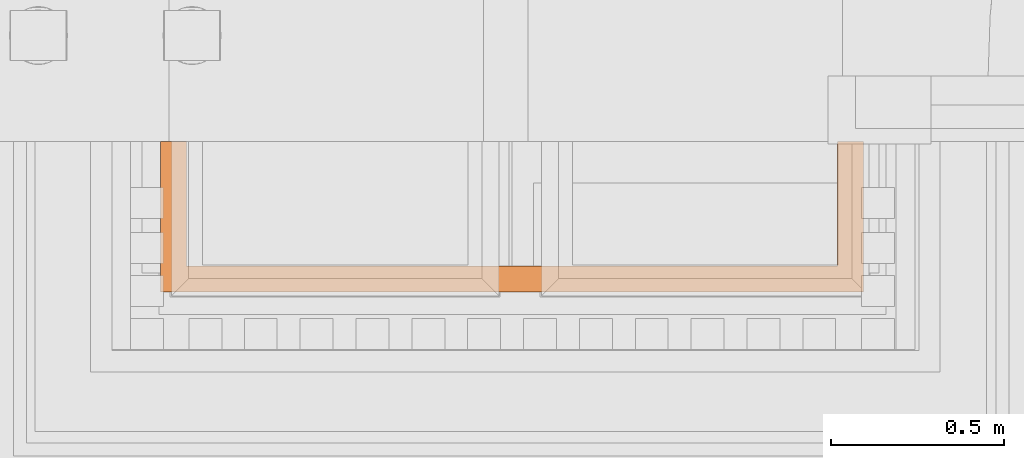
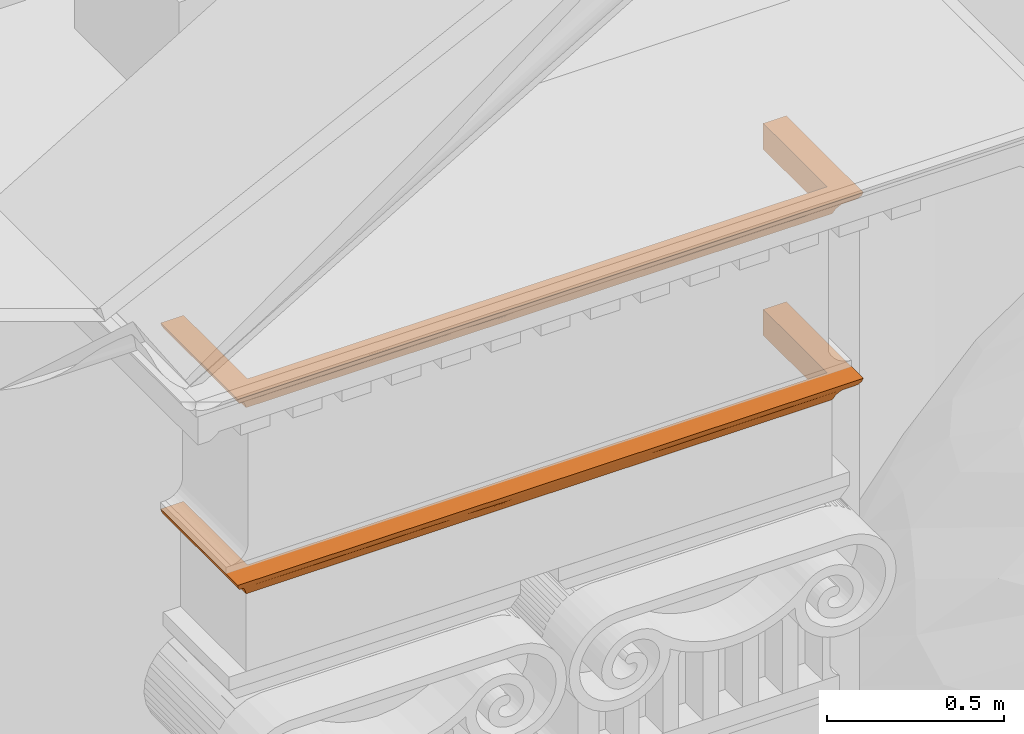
# One storey, part 28 of 44: 2 proxies.
"""IFC2X3 building model written with IfcOpenShell, lengths in metres."""

import ifcopenshell
import ifcopenshell.guid

model = None  # the IFC model being written
_history = None  # IfcOwnerHistory: only IFC2X3 demands one
_inside = {}  # id of a spatial element -> (the spatial element, [elements in it])
_under = {}  # id of a project, library or spatial element -> (it, [spatial elements below it])
_declared = {}  # id of a project -> (the project, [libraries it declares])
_typed = {}  # id of a type object -> (the type object, [elements of that type])
_made_of = {}  # id of a material, layer set ... -> (it, [elements and type objects made of it])


def new_model(schema):
    """Start an empty IFC model of exactly this schema.

    Asked for "IFC4X3", IfcOpenShell would pick the latest addendum, in which some entities
    have other attributes; the version numbers below select the first issue.
    IFC2X3 requires an IfcOwnerHistory on every rooted entity: one is made here for all.
    """
    global model, _history
    if schema == "IFC4X3":
        model = ifcopenshell.file(schema_version=(4, 3, 0, 0))
    else:
        model = ifcopenshell.file(schema=schema)
    _inside.clear()
    _under.clear()
    _declared.clear()
    _typed.clear()
    _made_of.clear()
    _history = None
    if model.schema == "IFC2X3":
        org = make("IfcOrganization", Name="unknown")
        user = make(
            "IfcPersonAndOrganization",
            ThePerson=make("IfcPerson", FamilyName="unknown"),
            TheOrganization=org,
        )
        app = make(
            "IfcApplication",
            ApplicationDeveloper=org,
            Version="unknown",
            ApplicationFullName="unknown",
            ApplicationIdentifier="unknown",
        )
        _history = make(
            "IfcOwnerHistory",
            OwningUser=user,
            OwningApplication=app,
            ChangeAction="ADDED",
            CreationDate=0,
        )
    return model


def make(cls, **values):
    """One entity of the class cls with the attributes given. An attribute that is None is left unset."""
    return model.create_entity(
        cls, **{name: value for name, value in values.items() if value is not None}
    )


def entity(cls, *values):
    """Any entity or typed value of the class cls, its attributes in the order of the schema. None: left unset."""
    e = model.create_entity(cls)
    for i, value in enumerate(values):
        if value is not None:
            e[i] = value
    return e


def rooted(cls, **values):
    """An entity with a GlobalId (a new one), such as an element, a storey or a relation."""
    return make(cls, GlobalId=ifcopenshell.guid.new(), OwnerHistory=_history, **values)


def si_unit(unit_type, name, prefix=None):
    """IfcSIUnit, for example si_unit("LENGTHUNIT", "METRE", prefix="MILLI")."""
    return make("IfcSIUnit", UnitType=unit_type, Prefix=prefix, Name=name)


def converted_unit(unit_type, name, factor, base, dimensions=None, offset=None):
    """IfcConversionBasedUnit, such as the inch: factor (a typed value) times the base unit."""
    return make(
        "IfcConversionBasedUnit"
        if offset is None
        else "IfcConversionBasedUnitWithOffset",
        ConversionOffset=offset,
        Dimensions=None
        if dimensions is None
        else entity("IfcDimensionalExponents", *dimensions),
        UnitType=unit_type,
        Name=name,
        ConversionFactor=make(
            "IfcMeasureWithUnit", ValueComponent=factor, UnitComponent=base
        ),
    )


def derived_unit(unit_type, elements):
    """IfcDerivedUnit: a product of units, each with its exponent."""
    return make(
        "IfcDerivedUnit",
        Elements=[
            make("IfcDerivedUnitElement", Unit=unit, Exponent=power)
            for unit, power in elements
        ],
        UnitType=unit_type,
    )


def assignment(units):
    """IfcUnitAssignment: the units of a project."""
    return None if units is None else make("IfcUnitAssignment", Units=units)


def point(xyz):
    """IfcCartesianPoint."""
    return None if xyz is None else make("IfcCartesianPoint", Coordinates=xyz)


def direction(xyz):
    """IfcDirection."""
    return None if xyz is None else make("IfcDirection", DirectionRatios=xyz)


def frame(location, z_axis=None, x_axis=None):
    """IfcAxis2Placement3D, a coordinate frame: its origin and axes. An axis left out is left unset."""
    return make(
        "IfcAxis2Placement3D",
        Location=point(location),
        Axis=direction(z_axis),
        RefDirection=direction(x_axis),
    )


def origin():
    """The frame at (0, 0, 0) with its axes left unset."""
    return frame((0.0, 0.0, 0.0))


def place(relative_to, where):
    """IfcLocalPlacement: puts the frame where relative to a parent placement (None: the world)."""
    return make(
        "IfcLocalPlacement", PlacementRelTo=relative_to, RelativePlacement=where
    )


def context(
    kind, dimensions, precision=None, world=None, true_north=None, identifier=None
):
    """IfcGeometricRepresentationContext, for example the 3D "Model" context."""
    return make(
        "IfcGeometricRepresentationContext",
        ContextIdentifier=identifier,
        ContextType=kind,
        CoordinateSpaceDimension=dimensions,
        Precision=precision,
        WorldCoordinateSystem=world,
        TrueNorth=true_north,
    )


def subcontext(parent, identifier, kind, view, scale=None):
    """IfcGeometricRepresentationSubContext, for example "Body" below "Model"."""
    return make(
        "IfcGeometricRepresentationSubContext",
        ContextIdentifier=identifier,
        ContextType=kind,
        ParentContext=parent,
        TargetScale=scale,
        TargetView=view,
    )


def project(units=None, contexts=None):
    """IfcProject with its units and contexts."""
    return rooted(
        "IfcProject",
        Name="project",
        RepresentationContexts=contexts,
        UnitsInContext=assignment(units),
    )


def spatial(cls, under=None, at=None, **own):
    """A site, building, storey or space (cls), placed at a placement, below another one or the project."""
    s = rooted(cls, ObjectPlacement=at, **own)
    if under is not None:
        _under.setdefault(under.id(), (under, []))[1].append(s)
    return s


def faces_of(points, faces, orient=None, outer=None):
    """IfcFace entities. A face is a list of loops; a loop is a list of indices into points, from 0.

    orient and outer hold one flag for each loop. By default every Orientation is true, the
    first loop of a face is its IfcFaceOuterBound and the others are IfcFaceBound.
    """
    made = []
    for i, loops in enumerate(faces):
        bounds = []
        for j, loop in enumerate(loops):
            is_outer = j == 0 if outer is None else outer[i][j]
            bounds.append(
                make(
                    "IfcFaceOuterBound" if is_outer else "IfcFaceBound",
                    Bound=make("IfcPolyLoop", Polygon=[points[k] for k in loop]),
                    Orientation=True if orient is None else orient[i][j],
                )
            )
        made.append(make("IfcFace", Bounds=bounds))
    return made


def faceted_brep(points, faces, orient=None, outer=None, voids=None):
    """IfcFacetedBrep: a solid bounded by flat faces; with voids (closed shells), ...WithVoids."""
    shared = [point(p) for p in points]
    hull = make("IfcClosedShell", CfsFaces=faces_of(shared, faces, orient, outer))
    if voids is None:
        return make("IfcFacetedBrep", Outer=hull)
    return make(
        "IfcFacetedBrepWithVoids",
        Outer=hull,
        Voids=[
            make(cls, CfsFaces=faces_of(shared, fs, o, b)) for cls, fs, o, b in voids
        ],
    )


def shape(context_of_items, identifier, shape_type, items):
    """IfcShapeRepresentation: the items that make up one representation, for example the "Body"."""
    return make(
        "IfcShapeRepresentation",
        ContextOfItems=context_of_items,
        RepresentationIdentifier=identifier,
        RepresentationType=shape_type,
        Items=items,
    )


def material(Name=None, Category=None):
    """IfcMaterial."""
    return make("IfcMaterial", Name=Name, Category=Category)


def made_of(thing, what):
    """Note that an element or type object is made of a material, layer set ...; save() writes the relation."""
    if what is not None:
        _made_of.setdefault(what.id(), (what, []))[1].append(thing)
    return thing


def element(
    cls,
    number,
    at=None,
    inside=None,
    cuts=None,
    type_object=None,
    material=None,
    context=None,
    identifier="Body",
    shape_type=None,
    held_by="IfcProductDefinitionShape",
    body=None,
    shapes=None,
    **own,
):
    """One element of the class cls, such as IfcWall. Its Tag is "e" and its number.

    at: its placement. inside: the storey or other place that contains it. cuts: it is an
    opening in that element (IfcRelVoidsElement). A single representation is given by context,
    identifier, shape_type and body (its items); several are given by shapes. held_by: the class
    of the entity that holds the representations. save() writes the other relations.
    """
    e = rooted(cls, Tag="e%d" % number, ObjectPlacement=at, **own)
    if body is not None:
        shapes = [shape(context, identifier, shape_type, body)]
    if shapes is not None:
        e.Representation = make(held_by, Representations=shapes)
    if inside is not None:
        _inside.setdefault(inside.id(), (inside, []))[1].append(e)
    if cuts is not None:
        rooted(
            "IfcRelVoidsElement", RelatingBuildingElement=cuts, RelatedOpeningElement=e
        )
    if type_object is not None:
        _typed.setdefault(type_object.id(), (type_object, []))[1].append(e)
    return made_of(e, material)


def aggregate(whole, parts):
    """IfcRelAggregates: a whole, such as a stair, and the parts it consists of."""
    return rooted("IfcRelAggregates", RelatingObject=whole, RelatedObjects=parts)


def save(model, path):
    """Write the relations noted so far, then the file.

    IfcRelAggregates (storeys below a building ...), IfcRelContainedInSpatialStructure (elements
    in a storey), IfcRelDefinesByType, IfcRelAssociatesMaterial and IfcRelDeclares: one each for
    every whole, place, type object, material and project.
    """
    for whole, parts in _under.values():
        aggregate(whole, parts)
    for where, things in _inside.values():
        rooted(
            "IfcRelContainedInSpatialStructure",
            RelatedElements=things,
            RelatingStructure=where,
        )
    for kind, things in _typed.values():
        rooted("IfcRelDefinesByType", RelatedObjects=things, RelatingType=kind)
    for what, things in _made_of.values():
        rooted("IfcRelAssociatesMaterial", RelatedObjects=things, RelatingMaterial=what)
    for by, libraries in _declared.values():
        rooted("IfcRelDeclares", RelatingContext=by, RelatedDefinitions=libraries)
    model.write(path)


model = new_model("IFC2X3")

# Units and contexts
model_context = context("Model", 3, precision=1e-05, world=origin(), true_north=direction((6.12303176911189e-17, 1.0)))
body_context = subcontext(model_context, "Body", "Model", "MODEL_VIEW")
ifc_project = project(units=[si_unit("LENGTHUNIT", "METRE"), si_unit("AREAUNIT", "SQUARE_METRE"), si_unit("VOLUMEUNIT", "CUBIC_METRE"), converted_unit("PLANEANGLEUNIT", "DEGREE", entity("IfcRatioMeasure", 0.0174532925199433), si_unit("PLANEANGLEUNIT", "RADIAN"), dimensions=[0, 0, 0, 0, 0, 0, 0]), si_unit("MASSUNIT", "GRAM", prefix="KILO"), derived_unit("MASSDENSITYUNIT", [(si_unit("MASSUNIT", "GRAM", prefix="KILO"), 1), (si_unit("LENGTHUNIT", "METRE"), -3)]), si_unit("TIMEUNIT", "SECOND"), si_unit("FREQUENCYUNIT", "HERTZ"), si_unit("THERMODYNAMICTEMPERATUREUNIT", "DEGREE_CELSIUS"), derived_unit("THERMALTRANSMITTANCEUNIT", [(si_unit("MASSUNIT", "GRAM", prefix="KILO"), 1), (si_unit("THERMODYNAMICTEMPERATUREUNIT", "KELVIN"), -1), (si_unit("TIMEUNIT", "SECOND"), -3)]), derived_unit("VOLUMETRICFLOWRATEUNIT", [(si_unit("LENGTHUNIT", "METRE"), 3), (si_unit("TIMEUNIT", "SECOND"), -1)]), si_unit("ELECTRICCURRENTUNIT", "AMPERE"), si_unit("ELECTRICVOLTAGEUNIT", "VOLT"), si_unit("POWERUNIT", "WATT"), si_unit("FORCEUNIT", "NEWTON", prefix="KILO"), si_unit("ILLUMINANCEUNIT", "LUX"), si_unit("LUMINOUSFLUXUNIT", "LUMEN"), si_unit("LUMINOUSINTENSITYUNIT", "CANDELA"), derived_unit("USERDEFINED", [(si_unit("MASSUNIT", "GRAM", prefix="KILO"), -1), (si_unit("LENGTHUNIT", "METRE"), -2), (si_unit("TIMEUNIT", "SECOND"), 3), (si_unit("LUMINOUSFLUXUNIT", "LUMEN"), 1)]), derived_unit("LINEARVELOCITYUNIT", [(si_unit("LENGTHUNIT", "METRE"), 1), (si_unit("TIMEUNIT", "SECOND"), -1)]), si_unit("PRESSUREUNIT", "PASCAL"), derived_unit("USERDEFINED", [(si_unit("LENGTHUNIT", "METRE"), -2), (si_unit("MASSUNIT", "GRAM", prefix="KILO"), 1), (si_unit("TIMEUNIT", "SECOND"), -2)])], contexts=[model_context])

# Site, building, storey
site_placement = place(None, origin())
site = spatial("IfcSite", under=ifc_project, at=site_placement, Name="Default", CompositionType="ELEMENT")
building_placement = place(site_placement, origin())
building = spatial("IfcBuilding", under=site, at=building_placement, CompositionType="ELEMENT")
storey_placement = place(building_placement, origin())
storey = spatial("IfcBuildingStorey", under=building, at=storey_placement, Name="Livello 1", CompositionType="ELEMENT", Elevation=0.0)

# Proxies
ifc_material = material(Name="Piperno")
proxy_1_placement = place(storey_placement, frame((-4.88894352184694, 0.826731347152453, 21.9353568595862)))
element("IfcBuildingElementProxy", 1, at=proxy_1_placement, inside=storey, material=ifc_material, Name="Stratigrafia", context=body_context, shape_type="Brep", body=[
    faceted_brep([(1.96261294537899, 0.436641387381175, 0.0912885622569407), (2.03761294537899, 0.436641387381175, 0.0912885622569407), (2.03387347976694, 0.436641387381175, 0.0791148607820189), (2.02722756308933, 0.436641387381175, 0.0682514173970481), (2.01809170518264, 0.436641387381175, 0.0593790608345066), (2.007038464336, 0.436641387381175, 0.0530538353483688), (1.99242845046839, 0.436641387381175, 0.038323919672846), (1.98112304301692, 0.436641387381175, 0.020928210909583), (1.97359573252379, 0.436641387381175, 0.0015952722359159), (1.96261294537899, 0.436641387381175, 0.0015952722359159), (0.0467797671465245, 0.436641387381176, 0.038323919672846), (0.0321697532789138, 0.436641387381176, 0.0530538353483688), (0.0211165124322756, 0.436641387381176, 0.0593790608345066), (0.0119806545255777, 0.436641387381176, 0.0682514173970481), (0.00533473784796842, 0.436641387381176, 0.0791148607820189), (0.00159527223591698, 0.436641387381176, 0.0912885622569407), (0.0765952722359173, 0.436641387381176, 0.0912885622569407), (0.0765952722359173, 0.436641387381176, 0.0015952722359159), (0.0656124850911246, 0.436641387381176, 0.0015952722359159), (0.0580851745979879, 0.436641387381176, 0.020928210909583), (2.007038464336, 0.207952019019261, 0.0530538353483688), (2.007038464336, 0.187600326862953, 0.0530538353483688), (2.007038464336, 0.032169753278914, 0.0530538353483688), (1.99242845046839, 0.0467797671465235, 0.038323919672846), (1.98112304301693, 0.0580851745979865, 0.020928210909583), (1.97359573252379, 0.0656124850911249, 0.0015952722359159), (1.62202667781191, 0.0656124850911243, 0.0015952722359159), (1.27046453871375, 0.0656124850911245, 0.0015952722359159), (1.0196006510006, 0.0656124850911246, 0.0015952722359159), (0.768736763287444, 0.0656124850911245, 0.0015952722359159), (0.417174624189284, 0.0656124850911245, 0.0015952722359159), (0.0656124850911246, 0.065612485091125, 0.0015952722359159), (0.0765952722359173, 0.0765952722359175, 0.0015952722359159), (1.96261294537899, 0.0765952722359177, 0.0015952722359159), (1.96261294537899, 0.0765952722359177, 0.0912885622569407), (0.0015952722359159, 0.250636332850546, 0.0912885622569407), (0.00159527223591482, 0.00159527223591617, 0.0912885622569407), (0.25063388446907, 0.00159527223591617, 0.0912885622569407), (0.499675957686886, 0.00159527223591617, 0.0912885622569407), (0.759640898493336, 0.00159527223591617, 0.0912885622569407), (1.01960237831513, 0.00159527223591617, 0.0912885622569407), (1.27956731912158, 0.00159527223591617, 0.0912885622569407), (1.53953225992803, 0.00159527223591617, 0.0912885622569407), (1.78857087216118, 0.00159527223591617, 0.0912885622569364), (2.03761294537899, 0.00159527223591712, 0.0912885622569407), (2.037612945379, 0.250636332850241, 0.0912885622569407), (0.0765952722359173, 0.0765952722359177, 0.0912885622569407), (2.03387347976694, 0.00533473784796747, 0.0791148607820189), (2.03089181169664, 0.224311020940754, 0.0734743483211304), (2.0350515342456, 0.266552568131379, 0.0819540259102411), (2.01809170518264, 0.0211165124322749, 0.0593790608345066), (2.01517555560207, 0.262980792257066, 0.0573396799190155), (2.02293837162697, 0.232788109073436, 0.0635282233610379), (2.02722756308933, 0.0119806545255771, 0.0682514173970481), (0.0467797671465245, 0.0467797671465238, 0.038323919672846), (0.0580851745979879, 0.0580851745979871, 0.020928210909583), (0.367866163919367, 0.0521366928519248, 0.0310412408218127), (1.67134205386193, 0.0521366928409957, 0.031041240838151), (0.383732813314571, 0.0321697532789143, 0.0530538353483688), (1.65547540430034, 0.0321697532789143, 0.0530538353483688), (1.45159991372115, 0.0460051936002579, 0.0392723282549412), (0.592959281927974, 0.0590390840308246, 0.019018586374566), (1.17857156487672, 0.049325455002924, 0.0350321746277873), (1.33754250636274, 0.0321697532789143, 0.0530538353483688), (1.26864147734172, 0.0321697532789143, 0.0530538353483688), (1.02833349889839, 0.0321697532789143, 0.0530538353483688), (1.01960410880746, 0.0321697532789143, 0.0530538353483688), (0.860636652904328, 0.0522964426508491, 0.0308017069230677), (0.779291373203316, 0.0321697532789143, 0.0530538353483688), (0.701665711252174, 0.0321697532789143, 0.0530538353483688), (1.75799633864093, 0.0321697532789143, 0.0530538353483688), (0.281211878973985, 0.0321697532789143, 0.0530538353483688), (0.0321697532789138, 0.0321697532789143, 0.0530538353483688), (0.604066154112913, 0.0469191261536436, 0.0381507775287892), (0.530254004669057, 0.0321697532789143, 0.0530538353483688), (1.42275632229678, 0.0580212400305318, 0.021052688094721), (1.14503538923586, 0.0596767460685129, 0.0176830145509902), (1.50895421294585, 0.0321697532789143, 0.0530538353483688), (0.546115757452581, 0.00416868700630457, 0.081922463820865), (0.375156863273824, 0.00622593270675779, 0.0772409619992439), (0.585577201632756, 0.00852306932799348, 0.0731394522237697), (1.85863883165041, 0.00817935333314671, 0.0736996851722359), (0.180569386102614, 0.00817935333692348, 0.0736996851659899), (0.195154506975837, 0.0146448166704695, 0.065179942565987), (0.391043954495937, 0.0157075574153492, 0.0640828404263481), (0.267640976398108, 0.0224796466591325, 0.0583878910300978), (1.77156724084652, 0.0224796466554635, 0.058387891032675), (0.00533473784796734, 0.00533473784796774, 0.0791148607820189), (0.0119806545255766, 0.0119806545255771, 0.0682514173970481), (1.59272306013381, 0.0227911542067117, 0.058170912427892), (1.66405135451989, 0.00622593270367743, 0.0772409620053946), (0.960630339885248, 0.00510136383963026, 0.0796404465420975), (1.24637643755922, 0.00976144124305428, 0.0712452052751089), (1.4095491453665, 0.00485209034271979, 0.0802202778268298), (1.1986408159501, 0.0044919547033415, 0.0810951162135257), (0.915845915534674, 0.0196818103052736, 0.0604998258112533), (0.809439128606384, 0.0097344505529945, 0.0712845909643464), (0.639048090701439, 0.016007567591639, 0.0637847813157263), (1.84405371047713, 0.0146448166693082, 0.0651799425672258), (1.47132453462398, 0.010690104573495, 0.0699361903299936), (1.43760442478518, 0.0189403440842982, 0.0611124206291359), (0.729067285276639, 0.00473336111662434, 0.0805036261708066), (0.173994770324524, 0.00391099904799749, 0.0826144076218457), (0.463092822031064, 0.023354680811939, 0.0577870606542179), (1.02783945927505, 0.0108170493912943, 0.0697638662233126), (1.21750503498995, 0.0210338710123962, 0.0594414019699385), (1.8652134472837, 0.00391099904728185, 0.0826144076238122), (1.64816426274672, 0.0157075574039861, 0.0640828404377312), (0.661373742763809, 0.0244211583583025, 0.0570902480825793), (0.0211165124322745, 0.021116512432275, 0.0593790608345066), (0.0321697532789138, 0.187600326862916, 0.0530538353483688), (0.0321697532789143, 0.207952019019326, 0.0530538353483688), (0.00831640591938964, 0.22431102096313, 0.0734743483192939), (0.00403364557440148, 0.180264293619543, 0.0822812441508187), (0.0236134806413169, 0.19090797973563, 0.0576144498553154), (0.0162698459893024, 0.232788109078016, 0.0635282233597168)], [[[0, 1, 2, 3, 4, 5, 6, 7, 8, 9]], [[10, 11, 12, 13, 14, 15, 16, 17, 18, 19]], [[6, 5, 20, 21, 22, 23]], [[23, 24, 7, 6]], [[25, 8, 7, 24]], [[9, 8, 25, 26, 27, 28, 29, 30, 31, 18, 17, 32, 33]], [[0, 9, 33, 34]], [[16, 15, 35, 36, 37, 38, 39, 40, 41, 42, 43, 44, 45, 1, 0, 34, 46]], [[47, 48, 49]], [[50, 51, 52]], [[49, 48, 2]], [[45, 44, 49, 1]], [[44, 47, 49]], [[52, 53, 50]], [[2, 48, 3]], [[51, 21, 20, 5]], [[3, 48, 52]], [[1, 49, 2]], [[21, 51, 50]], [[5, 4, 51]], [[50, 22, 21]], [[53, 52, 48]], [[52, 51, 4]], [[52, 4, 3]], [[47, 53, 48]], [[54, 55, 56]], [[26, 25, 24]], [[30, 55, 31]], [[57, 24, 23]], [[58, 54, 56]], [[23, 59, 57]], [[59, 60, 57]], [[61, 56, 30]], [[62, 63, 64, 65, 66]], [[67, 66, 68, 69]], [[67, 62, 66]], [[23, 22, 70, 59]], [[54, 58, 71, 72]], [[73, 69, 74, 58]], [[56, 55, 30]], [[57, 26, 24]], [[27, 26, 75]], [[27, 76, 28]], [[67, 73, 61]], [[30, 29, 61]], [[76, 27, 75]], [[57, 60, 75]], [[62, 67, 76]], [[28, 76, 67]], [[28, 67, 29]], [[62, 60, 63]], [[76, 75, 62]], [[57, 75, 26]], [[75, 60, 62]], [[60, 59, 77, 63]], [[56, 61, 73]], [[61, 29, 67]], [[56, 73, 58]], [[69, 73, 67]], [[34, 33, 32, 46]], [[78, 79, 80]], [[53, 47, 81]], [[82, 83, 84]], [[72, 71, 85]], [[86, 70, 22]], [[87, 88, 82]], [[70, 86, 89]], [[38, 37, 79]], [[42, 90, 43]], [[91, 40, 39]], [[92, 93, 94]], [[95, 96, 97]], [[86, 50, 98]], [[53, 81, 98]], [[93, 99, 90]], [[92, 100, 99]], [[101, 80, 96]], [[82, 102, 87]], [[85, 84, 83]], [[84, 79, 82]], [[36, 87, 102]], [[97, 80, 84]], [[103, 84, 85]], [[92, 104, 105]], [[81, 106, 90]], [[44, 43, 106]], [[36, 102, 37]], [[98, 81, 107]], [[99, 93, 92]], [[108, 74, 69, 68]], [[82, 88, 83]], [[71, 103, 85]], [[50, 86, 22]], [[102, 79, 37]], [[88, 109, 83]], [[109, 72, 85]], [[109, 85, 83]], [[103, 71, 58, 74]], [[97, 96, 80]], [[103, 97, 84]], [[94, 104, 92]], [[103, 108, 97]], [[95, 68, 66, 65]], [[95, 97, 108]], [[95, 65, 105]], [[100, 64, 63, 77]], [[99, 100, 107]], [[39, 101, 91]], [[84, 80, 79]], [[101, 96, 91]], [[80, 101, 78]], [[78, 39, 38]], [[104, 91, 96]], [[41, 94, 93]], [[41, 93, 42]], [[91, 94, 40]], [[90, 42, 93]], [[96, 95, 104]], [[105, 104, 95]], [[100, 92, 105]], [[90, 99, 107]], [[100, 105, 64]], [[107, 89, 86]], [[106, 81, 47]], [[107, 81, 90]], [[86, 98, 107]], [[50, 53, 98]], [[107, 100, 89]], [[39, 78, 101]], [[79, 78, 38]], [[79, 102, 82]], [[44, 106, 47]], [[90, 106, 43]], [[100, 77, 89]], [[89, 77, 59, 70]], [[40, 94, 41]], [[104, 94, 91]], [[74, 108, 103]], [[95, 108, 68]], [[105, 65, 64]], [[54, 72, 110, 111, 11, 10]], [[10, 19, 55, 54]], [[19, 18, 31, 55]], [[46, 32, 17, 16]], [[14, 112, 113]], [[12, 114, 115]], [[35, 15, 14]], [[36, 35, 113]], [[13, 12, 115]], [[14, 13, 112]], [[112, 87, 113]], [[72, 114, 11, 111, 110]], [[114, 72, 109]], [[112, 13, 115]], [[36, 113, 87]], [[114, 12, 11]], [[88, 112, 115]], [[88, 115, 109]], [[109, 115, 114]], [[14, 113, 35]], [[87, 112, 88]]]),
])
proxy_2_placement = place(storey_placement, frame((-4.88894352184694, 0.826731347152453, 22.5753568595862)))
element("IfcBuildingElementProxy", 2, at=proxy_2_placement, inside=storey, material=ifc_material, Name="Stratigrafia", context=body_context, shape_type="Brep", body=[
    faceted_brep([(1.96261294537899, 0.436641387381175, 0.0912885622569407), (2.03761294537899, 0.436641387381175, 0.0912885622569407), (2.03387347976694, 0.436641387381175, 0.0791148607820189), (2.02722756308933, 0.436641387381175, 0.0682514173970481), (2.01809170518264, 0.436641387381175, 0.0593790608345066), (2.007038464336, 0.436641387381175, 0.0530538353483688), (1.99242845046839, 0.436641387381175, 0.038323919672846), (1.98112304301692, 0.436641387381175, 0.020928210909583), (1.97359573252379, 0.436641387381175, 0.0015952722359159), (1.96261294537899, 0.436641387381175, 0.0015952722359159), (0.0467797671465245, 0.436641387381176, 0.038323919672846), (0.0321697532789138, 0.436641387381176, 0.0530538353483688), (0.0211165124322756, 0.436641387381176, 0.0593790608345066), (0.0119806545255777, 0.436641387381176, 0.0682514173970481), (0.00533473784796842, 0.436641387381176, 0.0791148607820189), (0.00159527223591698, 0.436641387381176, 0.0912885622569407), (0.0765952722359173, 0.436641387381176, 0.0912885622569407), (0.0765952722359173, 0.436641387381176, 0.0015952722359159), (0.0656124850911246, 0.436641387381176, 0.0015952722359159), (0.0580851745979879, 0.436641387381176, 0.020928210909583), (2.007038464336, 0.207952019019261, 0.0530538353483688), (2.007038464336, 0.187600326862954, 0.0530538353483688), (2.007038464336, 0.0321697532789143, 0.0530538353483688), (1.99242845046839, 0.0467797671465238, 0.038323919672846), (1.98112304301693, 0.0580851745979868, 0.020928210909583), (1.97359573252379, 0.0656124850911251, 0.0015952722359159), (1.62202667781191, 0.0656124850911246, 0.0015952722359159), (1.27046453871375, 0.0656124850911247, 0.0015952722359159), (1.0196006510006, 0.0656124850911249, 0.0015952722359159), (0.768736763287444, 0.0656124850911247, 0.0015952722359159), (0.417174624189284, 0.0656124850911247, 0.0015952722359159), (0.0656124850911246, 0.0656124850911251, 0.0015952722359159), (0.0765952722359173, 0.0765952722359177, 0.0015952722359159), (1.96261294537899, 0.0765952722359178, 0.0015952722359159), (1.96261294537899, 0.0765952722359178, 0.0912885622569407), (0.0015952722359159, 0.250636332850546, 0.0912885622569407), (0.00159527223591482, 0.00159527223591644, 0.0912885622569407), (0.25063388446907, 0.00159527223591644, 0.0912885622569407), (0.499675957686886, 0.00159527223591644, 0.0912885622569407), (0.759640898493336, 0.00159527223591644, 0.0912885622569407), (1.01960237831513, 0.00159527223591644, 0.0912885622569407), (1.27956731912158, 0.00159527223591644, 0.0912885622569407), (1.53953225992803, 0.00159527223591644, 0.0912885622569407), (1.78857087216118, 0.00159527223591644, 0.0912885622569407), (2.03761294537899, 0.00159527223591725, 0.0912885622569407), (2.037612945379, 0.250636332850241, 0.0912885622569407), (0.0765952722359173, 0.0765952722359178, 0.0912885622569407), (2.03387347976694, 0.00533473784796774, 0.0791148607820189), (2.03089181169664, 0.224311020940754, 0.0734743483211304), (2.0350515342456, 0.266552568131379, 0.0819540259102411), (2.01809170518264, 0.0211165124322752, 0.0593790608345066), (2.01517555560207, 0.262980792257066, 0.0573396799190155), (2.02293837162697, 0.232788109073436, 0.0635282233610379), (2.02722756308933, 0.0119806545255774, 0.0682514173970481), (0.0467797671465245, 0.0467797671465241, 0.038323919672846), (0.0580851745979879, 0.0580851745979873, 0.020928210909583), (0.367866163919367, 0.052136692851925, 0.0310412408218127), (1.67134205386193, 0.0521366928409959, 0.031041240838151), (0.383732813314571, 0.0321697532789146, 0.0530538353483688), (1.65547540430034, 0.0321697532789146, 0.0530538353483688), (1.45159991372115, 0.0460051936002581, 0.0392723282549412), (0.592959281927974, 0.0590390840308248, 0.019018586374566), (1.17857156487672, 0.0493254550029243, 0.0350321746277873), (1.33754250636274, 0.0321697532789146, 0.0530538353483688), (1.26864147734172, 0.0321697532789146, 0.0530538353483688), (1.02833349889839, 0.0321697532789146, 0.0530538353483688), (1.01960410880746, 0.0321697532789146, 0.0530538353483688), (0.860636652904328, 0.0522964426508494, 0.0308017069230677), (0.779291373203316, 0.0321697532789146, 0.0530538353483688), (0.701665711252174, 0.0321697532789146, 0.0530538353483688), (1.75799633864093, 0.0321697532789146, 0.0530538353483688), (0.281211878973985, 0.0321697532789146, 0.0530538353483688), (0.0321697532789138, 0.0321697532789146, 0.0530538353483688), (0.604066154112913, 0.0469191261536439, 0.0381507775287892), (0.530254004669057, 0.0321697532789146, 0.0530538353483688), (1.42275632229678, 0.058021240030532, 0.021052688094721), (1.14503538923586, 0.0596767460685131, 0.0176830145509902), (1.50895421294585, 0.0321697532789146, 0.0530538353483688), (0.546115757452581, 0.00416868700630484, 0.081922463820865), (0.375156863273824, 0.00622593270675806, 0.0772409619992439), (0.585577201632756, 0.00852306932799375, 0.0731394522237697), (1.85863883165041, 0.00817935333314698, 0.0736996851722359), (0.180569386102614, 0.00817935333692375, 0.0736996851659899), (0.195154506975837, 0.0146448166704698, 0.065179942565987), (0.391043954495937, 0.0157075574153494, 0.0640828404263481), (0.267640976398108, 0.0224796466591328, 0.0583878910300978), (1.77156724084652, 0.0224796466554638, 0.058387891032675), (0.00533473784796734, 0.00533473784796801, 0.0791148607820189), (0.0119806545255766, 0.0119806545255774, 0.0682514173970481), (1.59272306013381, 0.0227911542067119, 0.058170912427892), (1.66405135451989, 0.00622593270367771, 0.0772409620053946), (0.960630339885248, 0.00510136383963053, 0.0796404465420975), (1.24637643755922, 0.00976144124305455, 0.0712452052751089), (1.4095491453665, 0.00485209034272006, 0.0802202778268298), (1.1986408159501, 0.00449195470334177, 0.0810951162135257), (0.915845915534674, 0.0196818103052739, 0.0604998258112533), (0.809439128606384, 0.00973445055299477, 0.0712845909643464), (0.639048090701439, 0.0160075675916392, 0.0637847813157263), (1.84405371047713, 0.0146448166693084, 0.0651799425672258), (1.47132453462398, 0.0106901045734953, 0.0699361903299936), (1.43760442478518, 0.0189403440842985, 0.0611124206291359), (0.729067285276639, 0.00473336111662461, 0.0805036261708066), (0.173994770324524, 0.00391099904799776, 0.0826144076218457), (0.463092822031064, 0.0233546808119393, 0.0577870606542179), (1.02783945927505, 0.0108170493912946, 0.0697638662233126), (1.21750503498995, 0.0210338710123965, 0.0594414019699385), (1.8652134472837, 0.00391099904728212, 0.0826144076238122), (1.64816426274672, 0.0157075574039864, 0.0640828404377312), (0.661373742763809, 0.0244211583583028, 0.0570902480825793), (0.0211165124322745, 0.0211165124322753, 0.0593790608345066), (0.0321697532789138, 0.187600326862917, 0.0530538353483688), (0.0321697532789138, 0.207952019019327, 0.0530538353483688), (0.00831640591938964, 0.224311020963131, 0.0734743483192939), (0.00403364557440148, 0.180264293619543, 0.0822812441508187), (0.0236134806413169, 0.19090797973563, 0.0576144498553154), (0.0162698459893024, 0.232788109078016, 0.0635282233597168)], [[[0, 1, 2, 3, 4, 5, 6, 7, 8, 9]], [[10, 11, 12, 13, 14, 15, 16, 17, 18, 19]], [[6, 5, 20, 21, 22, 23]], [[23, 24, 7, 6]], [[25, 8, 7, 24]], [[9, 8, 25, 26, 27, 28, 29, 30, 31, 18, 17, 32, 33]], [[0, 9, 33, 34]], [[16, 15, 35, 36, 37, 38, 39, 40, 41, 42, 43, 44, 45, 1, 0, 34, 46]], [[47, 48, 49]], [[50, 51, 52]], [[49, 48, 2]], [[45, 44, 49, 1]], [[44, 47, 49]], [[52, 53, 50]], [[2, 48, 3]], [[51, 21, 20, 5]], [[3, 48, 52]], [[1, 49, 2]], [[21, 51, 50]], [[5, 4, 51]], [[50, 22, 21]], [[53, 52, 48]], [[52, 51, 4]], [[52, 4, 3]], [[47, 53, 48]], [[54, 55, 56]], [[26, 25, 24]], [[30, 55, 31]], [[57, 24, 23]], [[58, 54, 56]], [[23, 59, 57]], [[59, 60, 57]], [[61, 56, 30]], [[62, 63, 64, 65, 66]], [[67, 66, 68, 69]], [[67, 62, 66]], [[23, 22, 70, 59]], [[54, 58, 71, 72]], [[73, 69, 74, 58]], [[56, 55, 30]], [[57, 26, 24]], [[27, 26, 75]], [[27, 76, 28]], [[67, 73, 61]], [[30, 29, 61]], [[76, 27, 75]], [[57, 60, 75]], [[62, 67, 76]], [[28, 76, 67]], [[28, 67, 29]], [[62, 60, 63]], [[76, 75, 62]], [[57, 75, 26]], [[75, 60, 62]], [[60, 59, 77, 63]], [[56, 61, 73]], [[61, 29, 67]], [[56, 73, 58]], [[69, 73, 67]], [[34, 33, 32, 46]], [[78, 79, 80]], [[53, 47, 81]], [[82, 83, 84]], [[72, 71, 85]], [[86, 70, 22]], [[87, 88, 82]], [[70, 86, 89]], [[38, 37, 79]], [[42, 90, 43]], [[91, 40, 39]], [[92, 93, 94]], [[95, 96, 97]], [[86, 50, 98]], [[53, 81, 98]], [[93, 99, 90]], [[92, 100, 99]], [[101, 80, 96]], [[82, 102, 87]], [[85, 84, 83]], [[84, 79, 82]], [[36, 87, 102]], [[97, 80, 84]], [[103, 84, 85]], [[92, 104, 105]], [[81, 106, 90]], [[44, 43, 106]], [[36, 102, 37]], [[98, 81, 107]], [[99, 93, 92]], [[108, 74, 69, 68]], [[82, 88, 83]], [[71, 103, 85]], [[50, 86, 22]], [[102, 79, 37]], [[88, 109, 83]], [[109, 72, 85]], [[109, 85, 83]], [[103, 71, 58, 74]], [[97, 96, 80]], [[103, 97, 84]], [[94, 104, 92]], [[103, 108, 97]], [[95, 68, 66, 65]], [[95, 97, 108]], [[95, 65, 105]], [[100, 64, 63, 77]], [[99, 100, 107]], [[39, 101, 91]], [[84, 80, 79]], [[101, 96, 91]], [[80, 101, 78]], [[78, 39, 38]], [[104, 91, 96]], [[41, 94, 93]], [[41, 93, 42]], [[91, 94, 40]], [[90, 42, 93]], [[96, 95, 104]], [[105, 104, 95]], [[100, 92, 105]], [[90, 99, 107]], [[100, 105, 64]], [[107, 89, 86]], [[106, 81, 47]], [[107, 81, 90]], [[86, 98, 107]], [[50, 53, 98]], [[107, 100, 89]], [[39, 78, 101]], [[79, 78, 38]], [[79, 102, 82]], [[44, 106, 47]], [[90, 106, 43]], [[100, 77, 89]], [[89, 77, 59, 70]], [[40, 94, 41]], [[104, 94, 91]], [[74, 108, 103]], [[95, 108, 68]], [[105, 65, 64]], [[54, 72, 110, 111, 11, 10]], [[10, 19, 55, 54]], [[19, 18, 31, 55]], [[46, 32, 17, 16]], [[14, 112, 113]], [[12, 114, 115]], [[35, 15, 14]], [[36, 35, 113]], [[13, 12, 115]], [[14, 13, 112]], [[112, 87, 113]], [[72, 114, 11, 111, 110]], [[114, 72, 109]], [[112, 13, 115]], [[36, 113, 87]], [[114, 12, 11]], [[88, 112, 115]], [[88, 115, 109]], [[109, 115, 114]], [[14, 113, 35]], [[87, 112, 88]]]),
])

save(model, "model.ifc")
